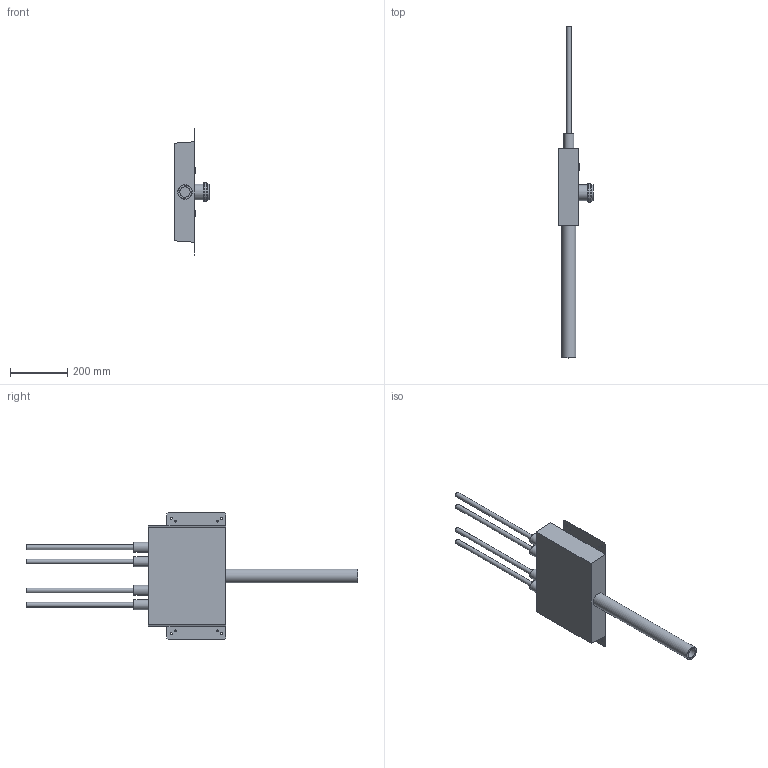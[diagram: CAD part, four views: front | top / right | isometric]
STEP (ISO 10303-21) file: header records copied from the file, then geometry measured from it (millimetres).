
FILE_DESCRIPTION(/* description */ (''),/* implementation_level */ '2;1');
FILE_NAME(/* name */ '\\LG50011\SANHA_Legnica\Engineering\Public\PROJEKTY\SANHA-BOX_Support_BiR\002-Rysunki_Boxów\325STZTO16\Zespół_325STZTO16.stp',/* time_stamp */ '2018-11-05T14:35:59+01:00',/* author */ ('gomulka'),/* organization */ (''),/* preprocessor_version */ 'ST-DEVELOPER v16.13',/* originating_system */ 'Autodesk Inventor 2018',/* authorisation */ '');
FILE_SCHEMA (('AUTOMOTIVE_DESIGN { 1 0 10303 214 3 1 1 }'));
Length unit declared in the file: millimetre
Products named in the file (6): Zespół_325STZTO16; 325STZTO16; KSBMPDW1; Rura_16x2; Rura_50; Kolano_DN50-OD50
Assembly tree (9 placements, depth 2):
  Zespół_325STZTO16
    325STZTO16
    KSBMPDW1  x2
    Rura_16x2  x4
    Rura_50
    Kolano_DN50-OD50
Bounding box: 119.19 x 1155.72 x 442 mm (x, y, z)
Volume: 7145514.9 mm3; surface area: 696668.8 mm2
Topology: 9 solids, 9 shells, 164 faces, 364 edges, 242 vertices
Faces by surface type: plane 110, cylinder 36, bspline 16, cone 2
Full cylindrical faces by diameter (mm): 6.1 x4, 7 x4, 14 x4, 16 x8, 18.631 x2, 21 x2, 35 x4, 35.993 x1, 48.5 x1, 50 x1, 51 x1, 55 x3, 65 x1
Entity records: 4148 total; most frequent: CARTESIAN_POINT 861, DIRECTION 588, ORIENTED_EDGE 576, EDGE_CURVE 288, VERTEX_POINT 210, EDGE_LOOP 206, LINE 202, VECTOR 202
